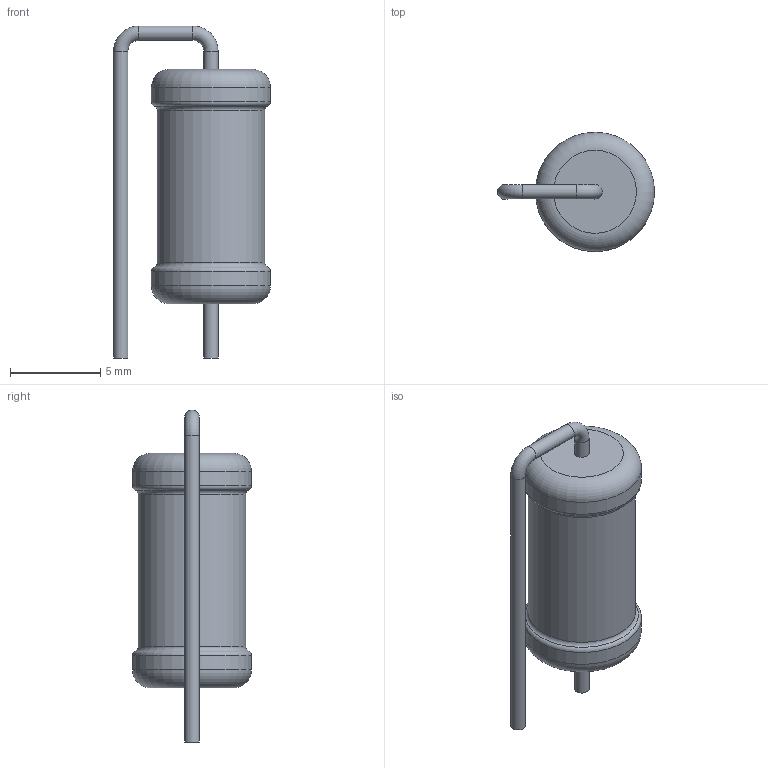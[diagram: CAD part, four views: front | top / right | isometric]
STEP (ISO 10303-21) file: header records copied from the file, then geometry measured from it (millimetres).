
FILE_DESCRIPTION(('STEP AP203'), '1');
FILE_NAME('栖闉罻', '', ('UNSPECIFIED'), ('UNSPECIFIED'), 'ASCON STEP Converter 1.6', 'ASCON Math Kernel', '');
FILE_SCHEMA(('CONFIG_CONTROL_DESIGN'));
Length unit declared in the file: millimetre
Assembly tree (1 placements, depth 2):
  (unnamed)
    (unnamed)
Bounding box: 8.7 x 6.6 x 18.4 mm (x, y, z)
Volume: 393.7 mm3; surface area: 374.9 mm2
Topology: 1 solids, 1 shells, 19 faces, 33 edges, 18 vertices
Faces by surface type: torus 8, cylinder 7, plane 4
Full cylindrical faces by diameter (mm): 0.8 x4, 5.96 x1, 6.6 x2
Entity records: 620 total; most frequent: DIRECTION 78, CARTESIAN_POINT 57, AXIS2_PLACEMENT_3D 39, EDGE_LOOP 36, ORIENTED_EDGE 36, FACE_OUTER_BOUND 30, COLOUR_RGB 20, FILL_AREA_STYLE_COLOUR 20
